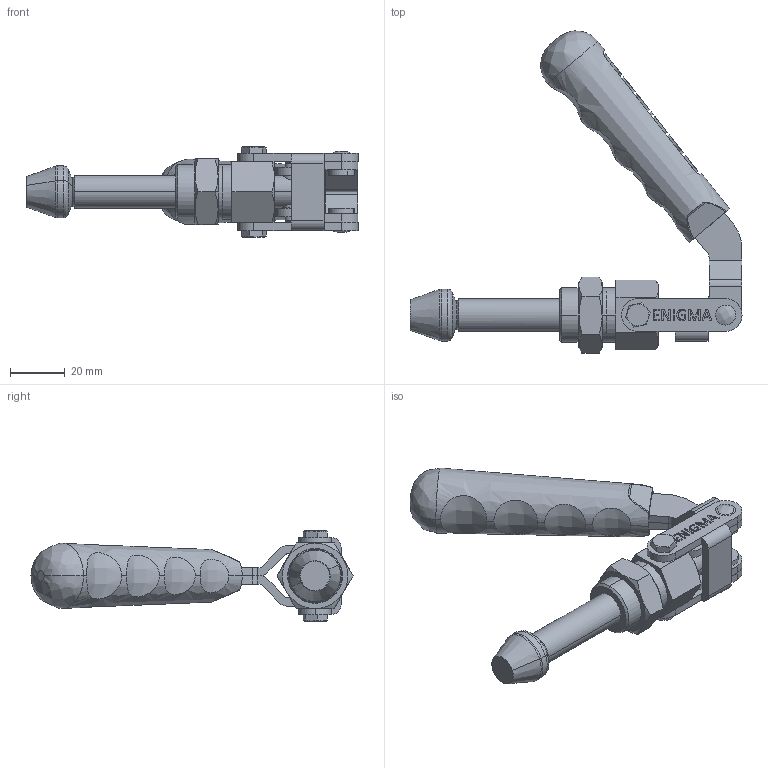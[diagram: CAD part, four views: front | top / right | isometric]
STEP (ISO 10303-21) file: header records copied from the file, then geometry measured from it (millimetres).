
FILE_DESCRIPTION (( 'STEP AP203' ), '1' );
FILE_NAME ('16012_T.STEP', '2022-11-27T21:28:44', ( '' ), ( '' ), 'SwSTEP 2.0', 'SolidWorks 2023', '' );
FILE_SCHEMA (( 'CONFIG_CONTROL_DESIGN' ));
Length unit declared in the file: millimetre
Products named in the file (12): 16012_MAFSAL_Varsay_X2_0131_X0_lan; _X2_009d00d8_X0_7x_X2_00d8_X0_5x21,4_16012_KADEMEL_X2_0130_X0__P_X2_0130_X0_M_Varsay_X2_0131_X0_lan; 16012__X2_00d8_X0_12_Mil_Varsay_X2_0131_X0_lan; Aynalama16012_HAREKET_KOLU_Varsay_X2_0131_X0_lan; M20x1_5x8_Kontra_Somun_Varsay_X2_0131_X0_lan; M8 Bask_X2_0131_X0__Varsay_X2_0131_X0_lan; 16012_HAREKET_KOLU_Varsay_X2_0131_X0_lan; 6x9_5_DOLU_PER_X2_00c70130_X0_N_Varsay_X2_0131_X0_lan; 16012_Alt_X2_0131_X0_genG_X2_00f6_X0_vde_Varsay_X2_0131_X0_lan; C90_Yeni_Tutamak_Varsay_X2_0131_X0_lan; M5x6x10_Kademeli_Civata_Varsay_X2_0131_X0_lan; 16012_T
Assembly tree (13 placements, depth 2):
  16012_T
    _X2_009d00d8_X0_7x_X2_00d8_X0_5x21,4_16012_KADEMEL_X2_0130_X0__P_X2_0130_X0_M_Varsay_X2_0131_X0_lan
    16012_Alt_X2_0131_X0_genG_X2_00f6_X0_vde_Varsay_X2_0131_X0_lan
    16012_HAREKET_KOLU_Varsay_X2_0131_X0_lan
    16012_MAFSAL_Varsay_X2_0131_X0_lan
    M5x6x10_Kademeli_Civata_Varsay_X2_0131_X0_lan  x2
    M8 Bask_X2_0131_X0__Varsay_X2_0131_X0_lan
    16012__X2_00d8_X0_12_Mil_Varsay_X2_0131_X0_lan
    Aynalama16012_HAREKET_KOLU_Varsay_X2_0131_X0_lan
    C90_Yeni_Tutamak_Varsay_X2_0131_X0_lan
    M20x1_5x8_Kontra_Somun_Varsay_X2_0131_X0_lan
    6x9_5_DOLU_PER_X2_00c70130_X0_N_Varsay_X2_0131_X0_lan  x2
Bounding box: 121.14 x 117.53 x 32.9 mm (x, y, z)
Volume: 63303.4 mm3; surface area: 37959.2 mm2
Topology: 13 solids, 13 shells, 538 faces, 1369 edges, 882 vertices
Faces by surface type: plane 262, cylinder 124, bspline 82, cone 70
Entity records: 25837 total; most frequent: CARTESIAN_POINT 12630, ORIENTED_EDGE 2594, DIRECTION 2242, EDGE_CURVE 1297, VERTEX_POINT 839, LINE 780, VECTOR 780, AXIS2_PLACEMENT_3D 731
